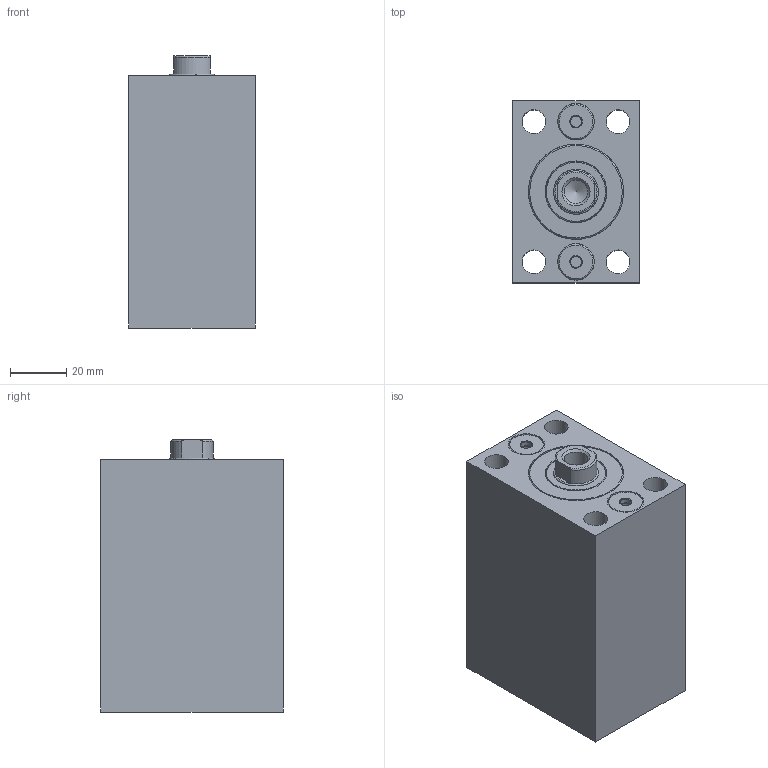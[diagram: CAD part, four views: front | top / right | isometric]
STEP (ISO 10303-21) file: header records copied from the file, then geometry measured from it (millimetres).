
FILE_DESCRIPTION( ( 'STEP AP203' ), '1' );
FILE_NAME( 'C:/Users/SAYKO.ltd/Desktop/SBZ100/07/SBZ100-25/SBZ100.25__FORM_07_STROKE_25__H2_44_POS_0_.stp', ' ', ( ' ' ), ( ' ' ), 'PSStep 15.0.47', 'PARTsolutions', ' ' );
FILE_SCHEMA( ( 'CONFIG_CONTROL_DESIGN' ) );
Length unit declared in the file: millimetre
Products named in the file (5): SBZ100.25  FORM=07 STROKE=25 (H2=44 POS=0); HI_SBZ10025  FORM=07 STROKE=25 H2=44 -C; HI_SBZ10025  FORM=07 STROKE=25-R; HI_SBZ100.25-C; HI_SBZ100.25-S
Assembly tree (4 placements, depth 2):
  SBZ100.25  FORM=07 STROKE=25 (H2=44 POS=0)
    HI_SBZ10025  FORM=07 STROKE=25 H2=44 -C
    HI_SBZ10025  FORM=07 STROKE=25-R
    HI_SBZ100.25-C
    HI_SBZ100.25-S
Bounding box: 45 x 65 x 97 mm (x, y, z)
Volume: 231327.3 mm3; surface area: 56566.8 mm2
Topology: 4 solids, 4 shells, 74 faces, 136 edges, 87 vertices
Faces by surface type: plane 33, cylinder 28, cone 10, torus 3
Full cylindrical faces by diameter (mm): 4 x4, 8.376 x1, 8.5 x4, 13 x2, 13.6 x4, 16 x4, 22 x1, 24 x2, 25 x2, 34 x2
Entity records: 3855 total; most frequent: CARTESIAN_POINT 2525, ORIENTED_EDGE 188, DIRECTION 178, EDGE_LOOP 140, FACE_OUTER_BOUND 101, EDGE_CURVE 94, VERTEX_POINT 83, AXIS2_PLACEMENT_3D 81
